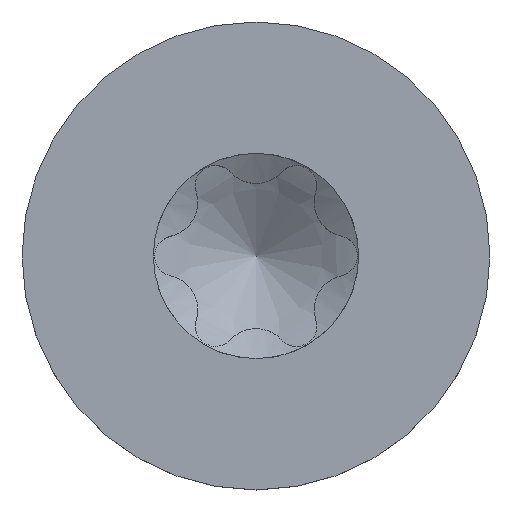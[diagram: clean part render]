
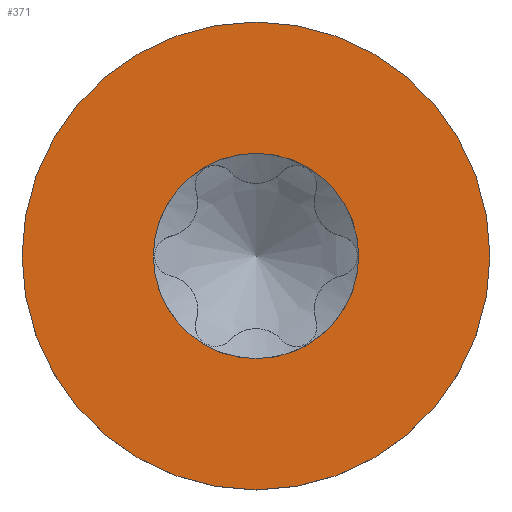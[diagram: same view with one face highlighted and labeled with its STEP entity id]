
A CAD part, top view. The second image highlights one B-rep face of the part: STEP entity #371.
In plain terms, the highlighted planar face has unit normal (0, 0, 1).
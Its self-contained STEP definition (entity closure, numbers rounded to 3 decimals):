
#326=PLANE('',#1980);
#334=FACE_BOUND('',#607,.T.);
#335=FACE_BOUND('',#608,.T.);
#371=ADVANCED_FACE('',(#334,#335),#326,.F.);
#607=EDGE_LOOP('',(#810));
#608=EDGE_LOOP('',(#811));
#733=CIRCLE('',#1978,0.735);
#734=CIRCLE('',#1979,1.675);
#810=ORIENTED_EDGE('',*,*,#1564,.F.);
#811=ORIENTED_EDGE('',*,*,#1565,.F.);
#1379=VERTEX_POINT('',#4886);
#1380=VERTEX_POINT('',#4888);
#1564=EDGE_CURVE('',#1379,#1379,#733,.T.);
#1565=EDGE_CURVE('',#1380,#1380,#734,.T.);
#1978=AXIS2_PLACEMENT_3D('',#4885,#2032,#2033);
#1979=AXIS2_PLACEMENT_3D('',#4887,#2034,#2035);
#1980=AXIS2_PLACEMENT_3D('',#4889,#2036,#2037);
#2032=DIRECTION('',(0.,0.,1.));
#2033=DIRECTION('',(-1.,0.,0.));
#2034=DIRECTION('',(0.,0.,-1.));
#2035=DIRECTION('',(-1.,0.,0.));
#2036=DIRECTION('',(0.,0.,-1.));
#2037=DIRECTION('',(-1.,0.,0.));
#4885=CARTESIAN_POINT('',(0.,0.,1.4));
#4886=CARTESIAN_POINT('',(-0.735,0.,1.4));
#4887=CARTESIAN_POINT('',(0.,0.,1.4));
#4888=CARTESIAN_POINT('',(-1.675,0.,1.4));
#4889=CARTESIAN_POINT('',(0.,0.,1.4));
